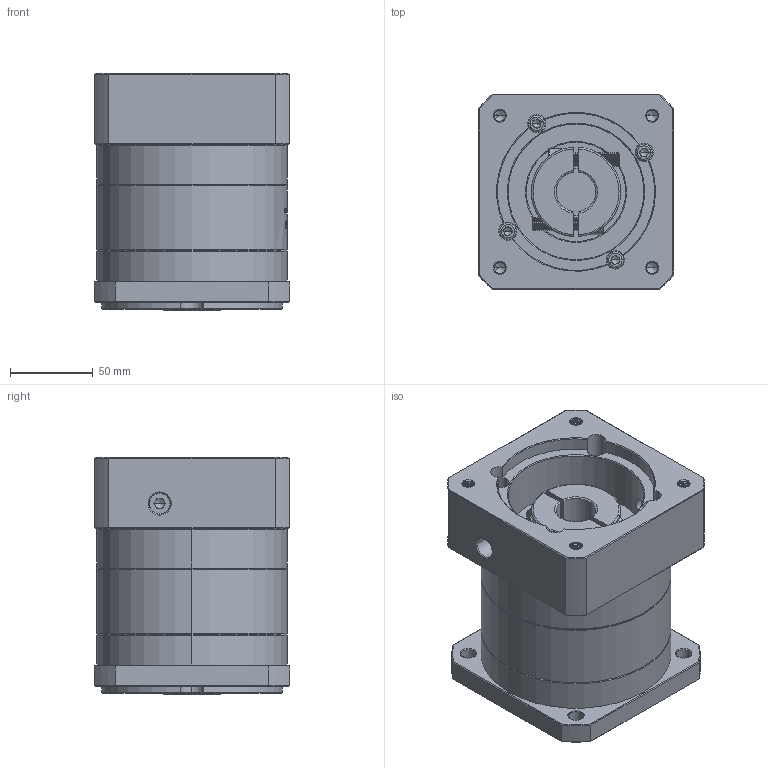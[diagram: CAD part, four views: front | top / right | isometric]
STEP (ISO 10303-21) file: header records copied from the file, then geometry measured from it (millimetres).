
FILE_DESCRIPTION (( 'STEP AP214' ), '1' );
FILE_NAME ('ZF120A-K25-L1-24-95-130-M8.step', '2023-03-07T09:37:17', ( '' ), ( '' ), 'SwSTEP 2.0', 'SolidWorks 2016', '' );
FILE_SCHEMA (( 'AUTOMOTIVE_DESIGN' ));
Length unit declared in the file: millimetre
Products named in the file (1): ZF120A-K25-L1-24-95-130-M8
Bounding box: 118 x 118 x 143.5 mm (x, y, z)
Volume: 1415602.2 mm3; surface area: 163276.7 mm2
Topology: 6 solids, 6 shells, 1894 faces, 4967 edges, 3167 vertices
Faces by surface type: plane 850, cylinder 392, cone 320, bspline 312, torus 20
Entity records: 101725 total; most frequent: CARTESIAN_POINT 37784, ORIENTED_EDGE 9878, DIRECTION 7700, EDGE_CURVE 4939, VERTEX_POINT 3167, LINE 2696, VECTOR 2696, AXIS2_PLACEMENT_3D 2502
